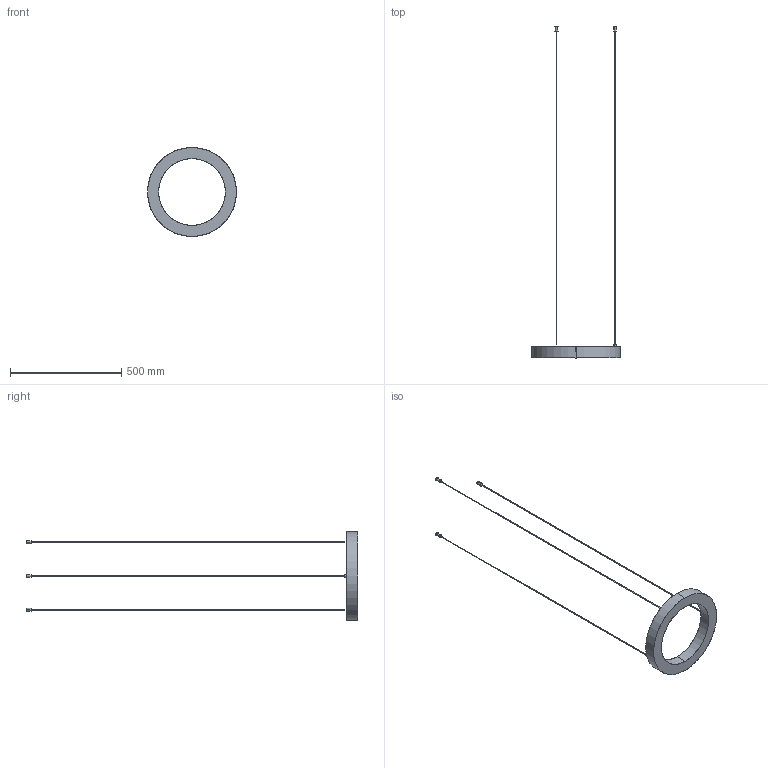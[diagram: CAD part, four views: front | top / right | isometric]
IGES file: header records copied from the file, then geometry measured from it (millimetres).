
Start section: SolidWorks IGES file using analytic representation for surfaces
Global section: file name: F:\燠隴矨\3D\2024-8堎\Ring LED Pendant Light-D40CM.IGS; native system: SolidWorks 2022; preprocessor: SolidWorks 2022; author: MyPC; date: 240813.091320; units: millimetre
Bounding box: 400 x 1492.5 x 400 mm (x, y, z)
Surface area: 264501.4 mm2 (no closed solid volume)
Topology: 0 solids, 0 shells, 64 faces, 1256 edges, 1256 vertices
Faces by surface type: revolution 42, bspline 22
